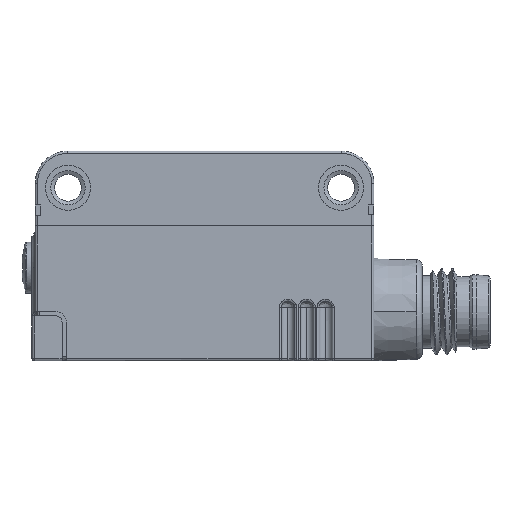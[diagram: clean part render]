
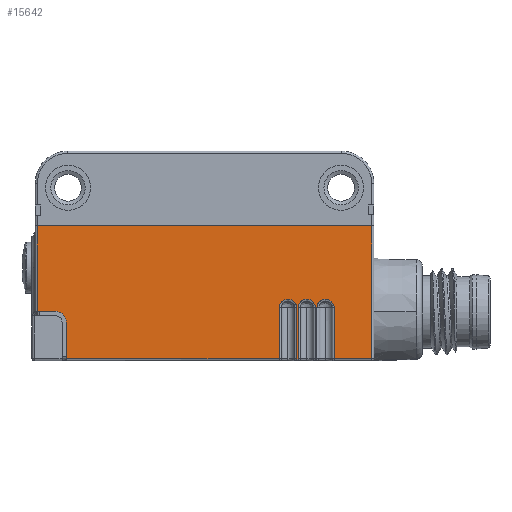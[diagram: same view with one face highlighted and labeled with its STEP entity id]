
A CAD part, left-side view. The second image highlights one B-rep face of the part: STEP entity #15642.
In plain terms, the highlighted planar face has unit normal (-1, 0, 0).
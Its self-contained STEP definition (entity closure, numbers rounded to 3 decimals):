
#1087=B_SPLINE_CURVE_WITH_KNOTS('',3,(#75144,#75145,#75146,#75147,#75148,
#75149,#75150,#75151,#75152,#75153,#75154,#75155,#75156,#75157),
 .UNSPECIFIED.,.F.,.F.,(4,2,2,2,2,2,4),(0.,0.125,0.25,0.5,0.75,0.875,1.),
 .UNSPECIFIED.);
#1090=B_SPLINE_CURVE_WITH_KNOTS('',3,(#75239,#75240,#75241,#75242,#75243,
#75244,#75245,#75246,#75247,#75248,#75249,#75250,#75251,#75252),
 .UNSPECIFIED.,.F.,.F.,(4,2,2,2,2,2,4),(0.,0.125,0.25,0.5,0.75,0.875,1.),
 .UNSPECIFIED.);
#1093=B_SPLINE_CURVE_WITH_KNOTS('',3,(#75334,#75335,#75336,#75337,#75338,
#75339,#75340,#75341,#75342,#75343,#75344,#75345,#75346,#75347),
 .UNSPECIFIED.,.F.,.F.,(4,2,2,2,2,2,4),(0.,0.125,0.25,0.5,0.75,0.875,1.),
 .UNSPECIFIED.);
#3601=FACE_OUTER_BOUND('',#19136,.T.);
#6902=LINE('',#74316,#10807);
#7060=LINE('',#75125,#10965);
#7061=LINE('',#75136,#10966);
#7062=LINE('',#75218,#10967);
#7063=LINE('',#75222,#10968);
#7064=LINE('',#75231,#10969);
#7065=LINE('',#75313,#10970);
#7066=LINE('',#75317,#10971);
#7067=LINE('',#75326,#10972);
#7068=LINE('',#75408,#10973);
#7069=LINE('',#75412,#10974);
#7070=LINE('',#75417,#10975);
#7205=LINE('',#75797,#11110);
#7206=LINE('',#75799,#11111);
#10807=VECTOR('',#55004,1.);
#10965=VECTOR('',#55614,1.);
#10966=VECTOR('',#55625,1.);
#10967=VECTOR('',#55636,1.);
#10968=VECTOR('',#55641,1.);
#10969=VECTOR('',#55650,1.);
#10970=VECTOR('',#55661,1.);
#10971=VECTOR('',#55666,1.);
#10972=VECTOR('',#55675,1.);
#10973=VECTOR('',#55686,1.);
#10974=VECTOR('',#55691,1.);
#10975=VECTOR('',#55700,1.);
#11110=VECTOR('',#56119,1.);
#11111=VECTOR('',#56120,1.);
#13676=PLANE('',#47377);
#15642=ADVANCED_FACE('',(#3601),#13676,.T.);
#19136=EDGE_LOOP('',(#28606,#28607,#28608,#28609,#28610,#28611,#28612,#28613,
#28614,#28615,#28616,#28617,#28618,#28619,#28620,#28621,#28622,#28623,#28624));
#28606=ORIENTED_EDGE('',*,*,#41616,.F.);
#28607=ORIENTED_EDGE('',*,*,#41617,.F.);
#28608=ORIENTED_EDGE('',*,*,#41618,.F.);
#28609=ORIENTED_EDGE('',*,*,#41619,.T.);
#28610=ORIENTED_EDGE('',*,*,#41436,.T.);
#28611=ORIENTED_EDGE('',*,*,#41438,.T.);
#28612=ORIENTED_EDGE('',*,*,#41443,.T.);
#28613=ORIENTED_EDGE('',*,*,#41445,.T.);
#28614=ORIENTED_EDGE('',*,*,#41449,.T.);
#28615=ORIENTED_EDGE('',*,*,#41451,.T.);
#28616=ORIENTED_EDGE('',*,*,#41456,.T.);
#28617=ORIENTED_EDGE('',*,*,#41458,.T.);
#28618=ORIENTED_EDGE('',*,*,#41462,.T.);
#28619=ORIENTED_EDGE('',*,*,#41464,.T.);
#28620=ORIENTED_EDGE('',*,*,#41469,.T.);
#28621=ORIENTED_EDGE('',*,*,#41471,.T.);
#28622=ORIENTED_EDGE('',*,*,#41474,.T.);
#28623=ORIENTED_EDGE('',*,*,#41192,.F.);
#28624=ORIENTED_EDGE('',*,*,#41431,.T.);
#35909=VERTEX_POINT('',#74315);
#35910=VERTEX_POINT('',#74317);
#35960=VERTEX_POINT('',#75124);
#35961=VERTEX_POINT('',#75128);
#35962=VERTEX_POINT('',#75135);
#35964=VERTEX_POINT('',#75143);
#35965=VERTEX_POINT('',#75213);
#35966=VERTEX_POINT('',#75221);
#35967=VERTEX_POINT('',#75230);
#35969=VERTEX_POINT('',#75238);
#35970=VERTEX_POINT('',#75308);
#35971=VERTEX_POINT('',#75316);
#35972=VERTEX_POINT('',#75325);
#35974=VERTEX_POINT('',#75333);
#35975=VERTEX_POINT('',#75403);
#35976=VERTEX_POINT('',#75411);
#35978=VERTEX_POINT('',#75794);
#35979=VERTEX_POINT('',#75796);
#35980=VERTEX_POINT('',#75798);
#41192=EDGE_CURVE('',#35909,#35910,#6902,.T.);
#41431=EDGE_CURVE('',#35909,#35960,#7060,.T.);
#41436=EDGE_CURVE('',#35961,#35962,#7061,.T.);
#41438=EDGE_CURVE('',#35962,#35964,#1087,.T.);
#41443=EDGE_CURVE('',#35964,#35965,#7062,.T.);
#41445=EDGE_CURVE('',#35965,#35966,#7063,.T.);
#41449=EDGE_CURVE('',#35966,#35967,#7064,.T.);
#41451=EDGE_CURVE('',#35967,#35969,#1090,.T.);
#41456=EDGE_CURVE('',#35969,#35970,#7065,.T.);
#41458=EDGE_CURVE('',#35970,#35971,#7066,.T.);
#41462=EDGE_CURVE('',#35971,#35972,#7067,.T.);
#41464=EDGE_CURVE('',#35972,#35974,#1093,.T.);
#41469=EDGE_CURVE('',#35974,#35975,#7068,.T.);
#41471=EDGE_CURVE('',#35975,#35976,#7069,.T.);
#41474=EDGE_CURVE('',#35976,#35910,#7070,.T.);
#41616=EDGE_CURVE('',#35978,#35960,#44562,.T.);
#41617=EDGE_CURVE('',#35979,#35978,#44563,.T.);
#41618=EDGE_CURVE('',#35980,#35979,#7205,.T.);
#41619=EDGE_CURVE('',#35980,#35961,#7206,.T.);
#44562=CIRCLE('',#47375,1309.533);
#44563=CIRCLE('',#47376,1.);
#47375=AXIS2_PLACEMENT_3D('',#75793,#56115,#56116);
#47376=AXIS2_PLACEMENT_3D('',#75795,#56117,#56118);
#47377=AXIS2_PLACEMENT_3D('',#75800,#56121,#56122);
#55004=DIRECTION('',(0.,-1.,0.));
#55614=DIRECTION('',(0.,0.,-1.));
#55625=DIRECTION('',(0.,0.,1.));
#55636=DIRECTION('',(0.,0.,-1.));
#55641=DIRECTION('',(0.,-1.,0.));
#55650=DIRECTION('',(0.,0.,1.));
#55661=DIRECTION('',(0.,0.,-1.));
#55666=DIRECTION('',(0.,-1.,0.));
#55675=DIRECTION('',(0.,0.,1.));
#55686=DIRECTION('',(0.,0.,-1.));
#55691=DIRECTION('',(0.,-1.,0.));
#55700=DIRECTION('',(0.,0.,1.));
#56115=DIRECTION('',(1.,0.,0.));
#56116=DIRECTION('',(0.,1.,0.));
#56117=DIRECTION('',(-1.,0.,0.));
#56118=DIRECTION('',(0.,-1.,0.));
#56119=DIRECTION('',(0.,0.,1.));
#56120=DIRECTION('',(0.,-1.,0.));
#56121=DIRECTION('',(-1.,0.,0.));
#56122=DIRECTION('',(0.,1.,0.));
#74315=CARTESIAN_POINT('',(-5.4,15.55,-6.95));
#74316=CARTESIAN_POINT('',(-5.4,0.,-6.95));
#74317=CARTESIAN_POINT('',(-5.4,-15.55,-6.95));
#75124=CARTESIAN_POINT('',(-5.4,15.55,-14.9));
#75125=CARTESIAN_POINT('',(-5.4,15.55,-10.15));
#75128=CARTESIAN_POINT('',(-5.4,-6.955,-19.3));
#75135=CARTESIAN_POINT('',(-5.4,-6.955,-14.5));
#75136=CARTESIAN_POINT('',(-5.4,-6.955,-16.9));
#75143=CARTESIAN_POINT('',(-5.4,-8.545,-14.5));
#75144=CARTESIAN_POINT('',(-5.4,-6.955,-14.5));
#75145=CARTESIAN_POINT('',(-5.4,-6.955,-14.4));
#75146=CARTESIAN_POINT('',(-5.4,-6.983,-14.303));
#75147=CARTESIAN_POINT('',(-5.4,-7.072,-14.127));
#75148=CARTESIAN_POINT('',(-5.4,-7.135,-14.048));
#75149=CARTESIAN_POINT('',(-5.4,-7.356,-13.852));
#75150=CARTESIAN_POINT('',(-5.4,-7.552,-13.777));
#75151=CARTESIAN_POINT('',(-5.4,-7.947,-13.777));
#75152=CARTESIAN_POINT('',(-5.4,-8.143,-13.85));
#75153=CARTESIAN_POINT('',(-5.4,-8.366,-14.048));
#75154=CARTESIAN_POINT('',(-5.4,-8.427,-14.126));
#75155=CARTESIAN_POINT('',(-5.4,-8.517,-14.303));
#75156=CARTESIAN_POINT('',(-5.4,-8.545,-14.4));
#75157=CARTESIAN_POINT('',(-5.4,-8.545,-14.5));
#75213=CARTESIAN_POINT('',(-5.4,-8.545,-19.3));
#75218=CARTESIAN_POINT('',(-5.4,-8.545,-16.9));
#75221=CARTESIAN_POINT('',(-5.4,-8.705,-19.3));
#75222=CARTESIAN_POINT('',(-5.4,-8.625,-19.3));
#75230=CARTESIAN_POINT('',(-5.4,-8.705,-14.5));
#75231=CARTESIAN_POINT('',(-5.4,-8.705,-16.9));
#75238=CARTESIAN_POINT('',(-5.4,-10.295,-14.5));
#75239=CARTESIAN_POINT('',(-5.4,-8.705,-14.5));
#75240=CARTESIAN_POINT('',(-5.4,-8.705,-14.4));
#75241=CARTESIAN_POINT('',(-5.4,-8.733,-14.303));
#75242=CARTESIAN_POINT('',(-5.4,-8.822,-14.127));
#75243=CARTESIAN_POINT('',(-5.4,-8.885,-14.048));
#75244=CARTESIAN_POINT('',(-5.4,-9.106,-13.852));
#75245=CARTESIAN_POINT('',(-5.4,-9.302,-13.777));
#75246=CARTESIAN_POINT('',(-5.4,-9.697,-13.777));
#75247=CARTESIAN_POINT('',(-5.4,-9.893,-13.85));
#75248=CARTESIAN_POINT('',(-5.4,-10.116,-14.048));
#75249=CARTESIAN_POINT('',(-5.4,-10.177,-14.126));
#75250=CARTESIAN_POINT('',(-5.4,-10.267,-14.303));
#75251=CARTESIAN_POINT('',(-5.4,-10.295,-14.4));
#75252=CARTESIAN_POINT('',(-5.4,-10.295,-14.5));
#75308=CARTESIAN_POINT('',(-5.4,-10.295,-19.3));
#75313=CARTESIAN_POINT('',(-5.4,-10.295,-16.9));
#75316=CARTESIAN_POINT('',(-5.4,-10.455,-19.3));
#75317=CARTESIAN_POINT('',(-5.4,-10.375,-19.3));
#75325=CARTESIAN_POINT('',(-5.4,-10.455,-14.5));
#75326=CARTESIAN_POINT('',(-5.4,-10.455,-16.9));
#75333=CARTESIAN_POINT('',(-5.4,-12.045,-14.5));
#75334=CARTESIAN_POINT('',(-5.4,-10.455,-14.5));
#75335=CARTESIAN_POINT('',(-5.4,-10.455,-14.4));
#75336=CARTESIAN_POINT('',(-5.4,-10.483,-14.303));
#75337=CARTESIAN_POINT('',(-5.4,-10.572,-14.127));
#75338=CARTESIAN_POINT('',(-5.4,-10.635,-14.048));
#75339=CARTESIAN_POINT('',(-5.4,-10.856,-13.852));
#75340=CARTESIAN_POINT('',(-5.4,-11.052,-13.777));
#75341=CARTESIAN_POINT('',(-5.4,-11.447,-13.777));
#75342=CARTESIAN_POINT('',(-5.4,-11.643,-13.85));
#75343=CARTESIAN_POINT('',(-5.4,-11.866,-14.048));
#75344=CARTESIAN_POINT('',(-5.4,-11.927,-14.126));
#75345=CARTESIAN_POINT('',(-5.4,-12.017,-14.303));
#75346=CARTESIAN_POINT('',(-5.4,-12.045,-14.4));
#75347=CARTESIAN_POINT('',(-5.4,-12.045,-14.5));
#75403=CARTESIAN_POINT('',(-5.4,-12.045,-19.3));
#75408=CARTESIAN_POINT('',(-5.4,-12.045,-16.9));
#75411=CARTESIAN_POINT('',(-5.4,-15.55,-19.3));
#75412=CARTESIAN_POINT('',(-5.4,-13.798,-19.3));
#75417=CARTESIAN_POINT('',(-5.4,-15.55,-13.15));
#75793=CARTESIAN_POINT('',(-5.4,14.985,1294.633));
#75794=CARTESIAN_POINT('',(-5.4,13.851,-14.9));
#75795=CARTESIAN_POINT('',(-5.4,13.85,-15.9));
#75796=CARTESIAN_POINT('',(-5.4,12.85,-15.9));
#75797=CARTESIAN_POINT('',(-5.4,12.85,-14.898));
#75798=CARTESIAN_POINT('',(-5.4,12.85,-19.3));
#75799=CARTESIAN_POINT('',(-5.4,2.473,-19.3));
#75800=CARTESIAN_POINT('',(-5.4,15.75,-7.));
